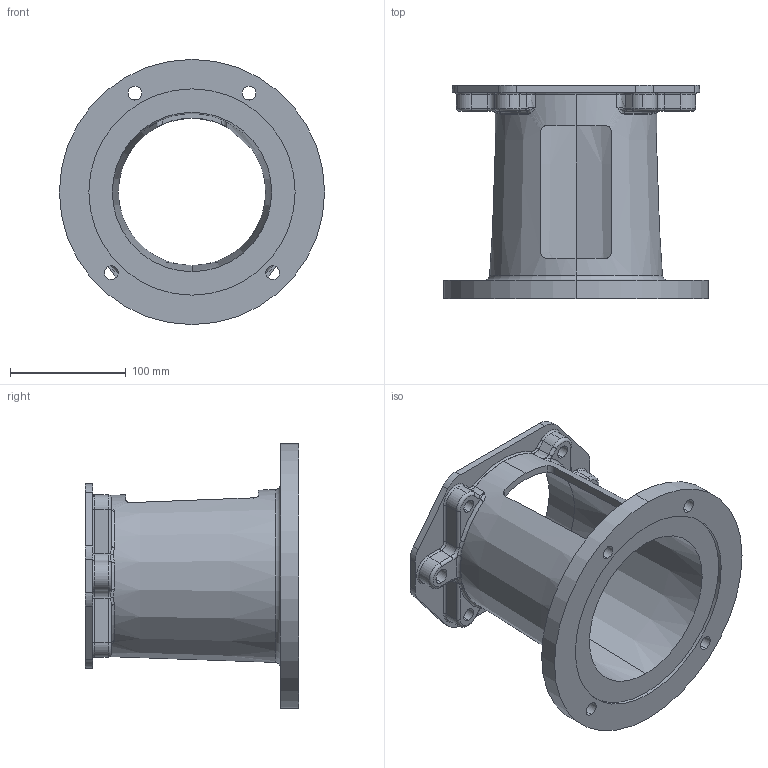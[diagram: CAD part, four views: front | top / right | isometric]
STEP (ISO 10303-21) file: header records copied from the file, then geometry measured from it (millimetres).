
FILE_DESCRIPTION (( 'STEP AP203' ), '1' );
FILE_NAME ('E700722C.STEP', '2014-11-04T13:31:26', ( '' ), ( '' ), 'SwSTEP 2.0', 'SolidWorks 2014', '' );
FILE_SCHEMA (( 'CONFIG_CONTROL_DESIGN' ));
Length unit declared in the file: inch
Products named in the file (1): E700722C
Bounding box: 228.6 x 184.15 x 228.6 mm (x, y, z)
Volume: 936065.9 mm3; surface area: 238507.6 mm2
Topology: 1 solids, 1 shells, 181 faces, 460 edges, 278 vertices
Faces by surface type: cylinder 74, torus 44, plane 35, bspline 24, cone 4
Entity records: 6781 total; most frequent: CARTESIAN_POINT 2390, DIRECTION 934, ORIENTED_EDGE 912, EDGE_CURVE 456, AXIS2_PLACEMENT_3D 396, VERTEX_POINT 278, CIRCLE 238, EDGE_LOOP 206
